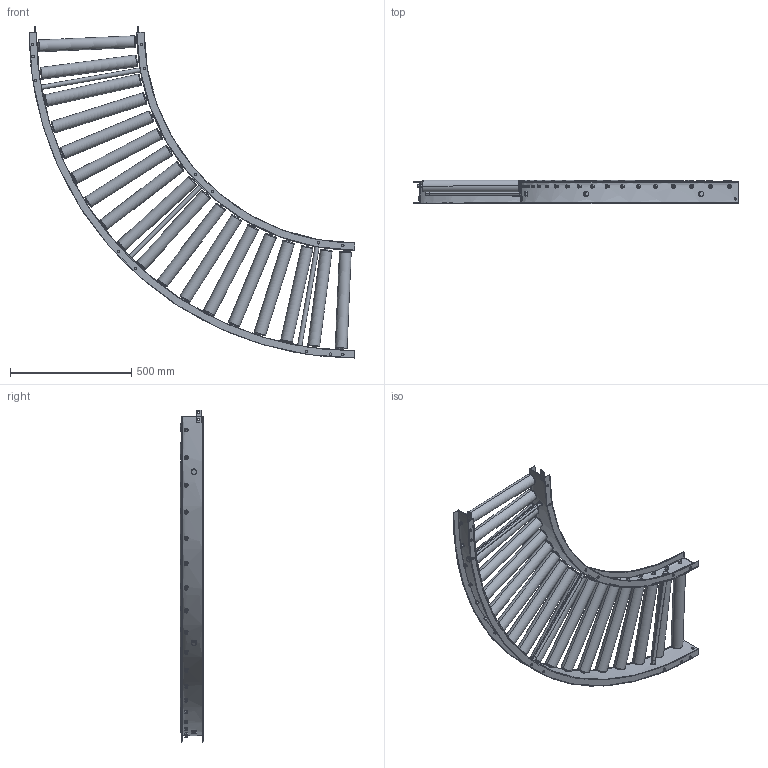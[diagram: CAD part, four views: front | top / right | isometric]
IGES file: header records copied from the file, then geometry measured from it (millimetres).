
Start section: SolidWorks IGES file using analytic representation for surfaces
Global section: file name: C:\Users\0656\Desktop\変換ツール\iges変換\R-4832NB_C.igs; native system: SolidWorks 2023; preprocessor: SolidWorks 2023; author: 0656; date: 240315.111917; units: millimetre
Bounding box: 1345 x 95.8 x 1370.1 mm (x, y, z)
Surface area: 3136676.2 mm2 (no closed solid volume)
Topology: 0 solids, 0 shells, 820 faces, 17884 edges, 17884 vertices
Faces by surface type: revolution 442, bspline 378
